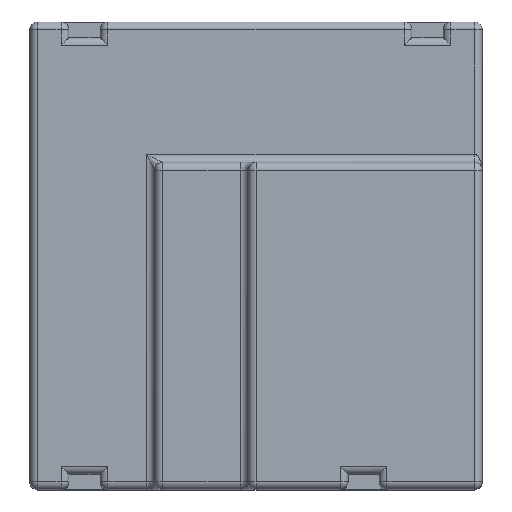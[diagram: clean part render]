
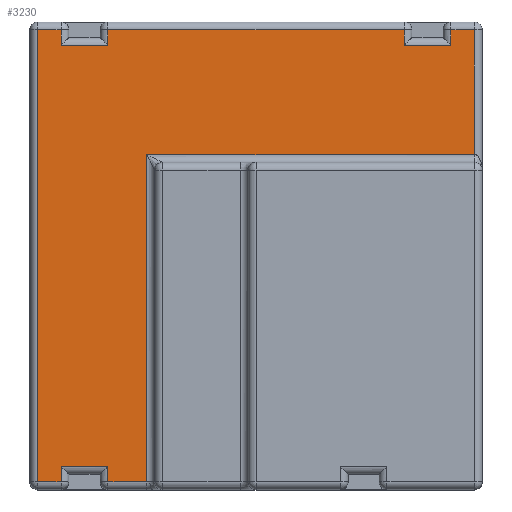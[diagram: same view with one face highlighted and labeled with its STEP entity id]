
A CAD part, top view. The second image highlights one B-rep face of the part: STEP entity #3230.
In plain terms, the highlighted planar face has unit normal (0, 0, 1).
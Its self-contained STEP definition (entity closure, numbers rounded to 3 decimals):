
#37=DIRECTION('',(0.,-1.,0.));
#38=VECTOR('',#37,21.);
#39=CARTESIAN_POINT('',(7.5,-8.5,10.2));
#40=LINE('',#39,#38);
#449=CARTESIAN_POINT('',(7.5,-8.5,10.2));
#459=DIRECTION('',(-1.,0.,0.));
#460=VECTOR('',#459,21.);
#461=CARTESIAN_POINT('',(28.5,-8.5,10.2));
#462=LINE('',#461,#460);
#485=DIRECTION('',(0.,1.,0.));
#486=VECTOR('',#485,1.);
#487=CARTESIAN_POINT('',(27.,-1.5,10.2));
#488=LINE('',#487,#486);
#770=DIRECTION('',(0.,-1.,0.));
#771=VECTOR('',#770,8.);
#772=CARTESIAN_POINT('',(28.5,-0.5,10.2));
#773=LINE('',#772,#771);
#801=DIRECTION('',(1.,0.,0.));
#802=VECTOR('',#801,1.5);
#803=CARTESIAN_POINT('',(27.,-0.5,10.2));
#804=LINE('',#803,#802);
#865=DIRECTION('',(1.,0.,0.));
#866=VECTOR('',#865,3.);
#867=CARTESIAN_POINT('',(24.,-1.5,10.2));
#868=LINE('',#867,#866);
#915=CARTESIAN_POINT('',(27.,-1.5,10.2));
#932=DIRECTION('',(0.,-1.,0.));
#933=VECTOR('',#932,1.);
#934=CARTESIAN_POINT('',(24.,-0.5,10.2));
#935=LINE('',#934,#933);
#979=DIRECTION('',(1.,0.,0.));
#980=VECTOR('',#979,19.);
#981=CARTESIAN_POINT('',(5.,-0.5,10.2));
#982=LINE('',#981,#980);
#1033=DIRECTION('',(0.,1.,0.));
#1034=VECTOR('',#1033,1.);
#1035=CARTESIAN_POINT('',(5.,-1.5,10.2));
#1036=LINE('',#1035,#1034);
#1077=DIRECTION('',(1.,0.,0.));
#1078=VECTOR('',#1077,3.);
#1079=CARTESIAN_POINT('',(2.,-1.5,10.2));
#1080=LINE('',#1079,#1078);
#1171=DIRECTION('',(0.,-1.,0.));
#1172=VECTOR('',#1171,1.);
#1173=CARTESIAN_POINT('',(2.,-0.5,10.2));
#1174=LINE('',#1173,#1172);
#1240=DIRECTION('',(1.,0.,0.));
#1241=VECTOR('',#1240,1.5);
#1242=CARTESIAN_POINT('',(0.5,-0.5,10.2));
#1243=LINE('',#1242,#1241);
#1286=DIRECTION('',(0.,1.,0.));
#1287=VECTOR('',#1286,29.);
#1288=CARTESIAN_POINT('',(0.5,-29.5,10.2));
#1289=LINE('',#1288,#1287);
#1339=DIRECTION('',(-1.,0.,0.));
#1340=VECTOR('',#1339,1.5);
#1341=CARTESIAN_POINT('',(2.,-29.5,10.2));
#1342=LINE('',#1341,#1340);
#1386=DIRECTION('',(0.,-1.,0.));
#1387=VECTOR('',#1386,1.);
#1388=CARTESIAN_POINT('',(2.,-28.5,10.2));
#1389=LINE('',#1388,#1387);
#1430=DIRECTION('',(-1.,0.,0.));
#1431=VECTOR('',#1430,3.);
#1432=CARTESIAN_POINT('',(5.,-28.5,10.2));
#1433=LINE('',#1432,#1431);
#1524=DIRECTION('',(0.,1.,0.));
#1525=VECTOR('',#1524,1.);
#1526=CARTESIAN_POINT('',(5.,-29.5,10.2));
#1527=LINE('',#1526,#1525);
#1593=DIRECTION('',(-1.,0.,0.));
#1594=VECTOR('',#1593,2.5);
#1595=CARTESIAN_POINT('',(7.5,-29.5,10.2));
#1596=LINE('',#1595,#1594);
#2488=VERTEX_POINT('',#449);
#2548=CARTESIAN_POINT('',(7.5,-29.5,10.2));
#2549=VERTEX_POINT('',#2548);
#2567=CARTESIAN_POINT('',(24.,-0.5,10.2));
#2568=VERTEX_POINT('',#2567);
#2569=CARTESIAN_POINT('',(24.,-1.5,10.2));
#2570=VERTEX_POINT('',#2569);
#2574=CARTESIAN_POINT('',(27.,-0.5,10.2));
#2576=VERTEX_POINT('',#2574);
#2582=VERTEX_POINT('',#915);
#2591=CARTESIAN_POINT('',(5.,-0.5,10.2));
#2592=VERTEX_POINT('',#2591);
#2593=CARTESIAN_POINT('',(5.,-1.5,10.2));
#2594=VERTEX_POINT('',#2593);
#2595=CARTESIAN_POINT('',(2.,-1.5,10.2));
#2596=VERTEX_POINT('',#2595);
#2597=CARTESIAN_POINT('',(2.,-0.5,10.2));
#2598=VERTEX_POINT('',#2597);
#2599=CARTESIAN_POINT('',(0.5,-0.5,10.2));
#2600=VERTEX_POINT('',#2599);
#2601=CARTESIAN_POINT('',(0.5,-29.5,10.2));
#2602=VERTEX_POINT('',#2601);
#2603=CARTESIAN_POINT('',(2.,-29.5,10.2));
#2604=VERTEX_POINT('',#2603);
#2605=CARTESIAN_POINT('',(2.,-28.5,10.2));
#2606=VERTEX_POINT('',#2605);
#2607=CARTESIAN_POINT('',(5.,-28.5,10.2));
#2608=VERTEX_POINT('',#2607);
#2609=CARTESIAN_POINT('',(5.,-29.5,10.2));
#2610=VERTEX_POINT('',#2609);
#2611=CARTESIAN_POINT('',(28.5,-8.5,10.2));
#2612=VERTEX_POINT('',#2611);
#2613=CARTESIAN_POINT('',(28.5,-0.5,10.2));
#2614=VERTEX_POINT('',#2613);
#3189=CARTESIAN_POINT('',(8.,0.,10.2));
#3190=DIRECTION('',(0.,0.,-1.));
#3191=DIRECTION('',(-1.,0.,0.));
#3192=AXIS2_PLACEMENT_3D('',#3189,#3190,#3191);
#3193=PLANE('',#3192);
#3195=ORIENTED_EDGE('',*,*,#3194,.T.);
#3197=ORIENTED_EDGE('',*,*,#3196,.T.);
#3199=ORIENTED_EDGE('',*,*,#3198,.T.);
#3200=ORIENTED_EDGE('',*,*,#3180,.T.);
#3201=ORIENTED_EDGE('',*,*,#2799,.T.);
#3203=ORIENTED_EDGE('',*,*,#3202,.T.);
#3205=ORIENTED_EDGE('',*,*,#3204,.T.);
#3207=ORIENTED_EDGE('',*,*,#3206,.T.);
#3209=ORIENTED_EDGE('',*,*,#3208,.T.);
#3211=ORIENTED_EDGE('',*,*,#3210,.T.);
#3213=ORIENTED_EDGE('',*,*,#3212,.T.);
#3215=ORIENTED_EDGE('',*,*,#3214,.T.);
#3217=ORIENTED_EDGE('',*,*,#3216,.T.);
#3219=ORIENTED_EDGE('',*,*,#3218,.T.);
#3221=ORIENTED_EDGE('',*,*,#3220,.T.);
#3223=ORIENTED_EDGE('',*,*,#3222,.T.);
#3225=ORIENTED_EDGE('',*,*,#3224,.T.);
#3227=ORIENTED_EDGE('',*,*,#3226,.T.);
#3228=EDGE_LOOP('',(#3195,#3197,#3199,#3200,#3201,#3203,#3205,#3207,#3209,#3211,
#3213,#3215,#3217,#3219,#3221,#3223,#3225,#3227));
#3229=FACE_OUTER_BOUND('',#3228,.F.);
#3230=ADVANCED_FACE('',(#3229),#3193,.F.);
#2799=EDGE_CURVE('',#2488,#2549,#40,.T.);
#3180=EDGE_CURVE('',#2612,#2488,#462,.T.);
#3194=EDGE_CURVE('',#2582,#2576,#488,.T.);
#3196=EDGE_CURVE('',#2576,#2614,#804,.T.);
#3198=EDGE_CURVE('',#2614,#2612,#773,.T.);
#3202=EDGE_CURVE('',#2549,#2610,#1596,.T.);
#3204=EDGE_CURVE('',#2610,#2608,#1527,.T.);
#3206=EDGE_CURVE('',#2608,#2606,#1433,.T.);
#3208=EDGE_CURVE('',#2606,#2604,#1389,.T.);
#3210=EDGE_CURVE('',#2604,#2602,#1342,.T.);
#3212=EDGE_CURVE('',#2602,#2600,#1289,.T.);
#3214=EDGE_CURVE('',#2600,#2598,#1243,.T.);
#3216=EDGE_CURVE('',#2598,#2596,#1174,.T.);
#3218=EDGE_CURVE('',#2596,#2594,#1080,.T.);
#3220=EDGE_CURVE('',#2594,#2592,#1036,.T.);
#3222=EDGE_CURVE('',#2592,#2568,#982,.T.);
#3224=EDGE_CURVE('',#2568,#2570,#935,.T.);
#3226=EDGE_CURVE('',#2570,#2582,#868,.T.);
